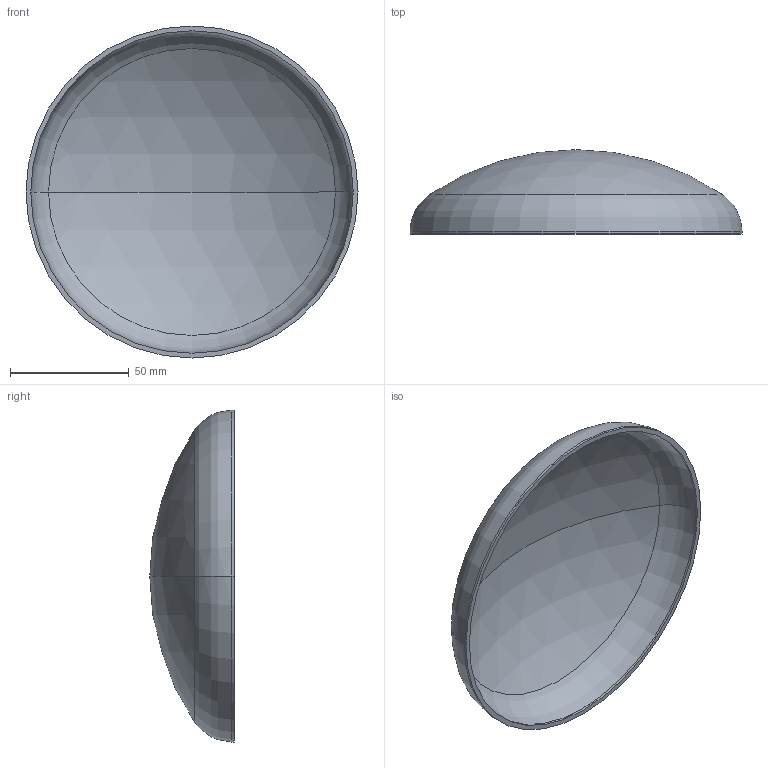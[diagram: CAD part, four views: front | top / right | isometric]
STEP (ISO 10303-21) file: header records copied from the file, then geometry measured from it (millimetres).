
FILE_DESCRIPTION (( 'STEP AP203' ), '1' );
FILE_NAME ('3D_R365_139.7x2_173371185.STEP', '2024-07-16T06:40:32', ( '' ), ( '' ), 'SwSTEP 2.0', 'SolidWorks 2024', '' );
FILE_SCHEMA (( 'CONFIG_CONTROL_DESIGN' ));
Length unit declared in the file: millimetre
Products named in the file (1): 3D_R365_139.7x2_173371185
Bounding box: 139.7 x 35.5 x 139.7 mm (x, y, z)
Volume: 40922 mm3; surface area: 41795.5 mm2
Topology: 1 solids, 1 shells, 13 faces, 24 edges, 14 vertices
Faces by surface type: sphere 4, torus 4, cylinder 4, plane 1
Entity records: 407 total; most frequent: DIRECTION 72, CARTESIAN_POINT 52, ORIENTED_EDGE 48, AXIS2_PLACEMENT_3D 34, EDGE_CURVE 24, CIRCLE 20, EDGE_LOOP 14, VERTEX_POINT 14
